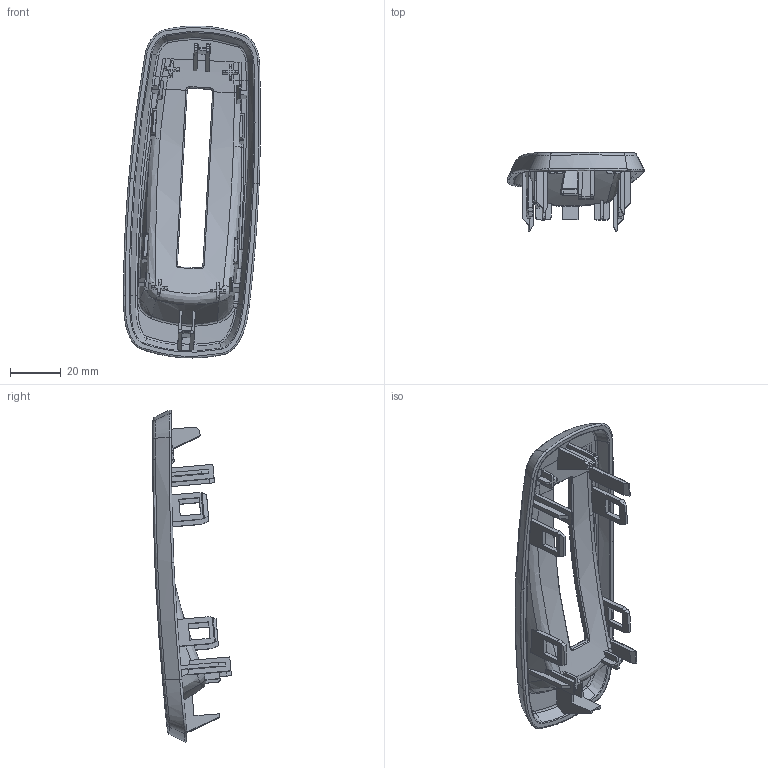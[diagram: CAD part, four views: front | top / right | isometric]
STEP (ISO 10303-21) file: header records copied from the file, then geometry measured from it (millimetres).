
FILE_DESCRIPTION(('CATIA V5 STEP Exchange','CAx-IF Rec.Pracs.--- Model Styling and Organization---1.4--- 2014-01-23'),'2;1');
FILE_NAME('C:\Users\luhaitao\Desktop\靠背一键放倒功能\第四次样件\SHT0016876.stp','2025-10-29T01:02:59+00:00',('none'),('none'),'CATIA Version 5-6 Release 2017','CATIA V5 STEP AP214','none');
FILE_SCHEMA(('AUTOMOTIVE_DESIGN { 1 0 10303 214 1 1 1 1 }'));
Length unit declared in the file: millimetre
Products named in the file (1): SHT0016876-002
Bounding box: 53.72 x 30.89 x 130.2 mm (x, y, z)
Volume: 20667.1 mm3; surface area: 19669.2 mm2
Topology: 1 solids, 1 shells, 383 faces, 1158 edges, 774 vertices
Faces by surface type: plane 170, bspline 169, cylinder 42, sphere 2
Entity records: 23968 total; most frequent: CARTESIAN_POINT 15831, ORIENTED_EDGE 2314, EDGE_CURVE 1157, VERTEX_POINT 774, DIRECTION 744, B_SPLINE_CURVE_WITH_KNOTS 685, EDGE_LOOP 391, ADVANCED_FACE 383
